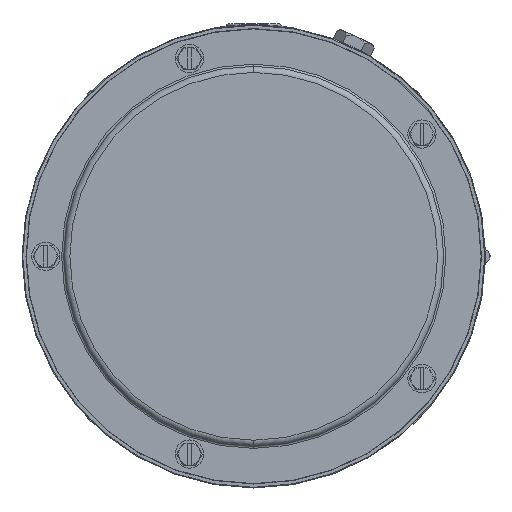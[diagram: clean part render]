
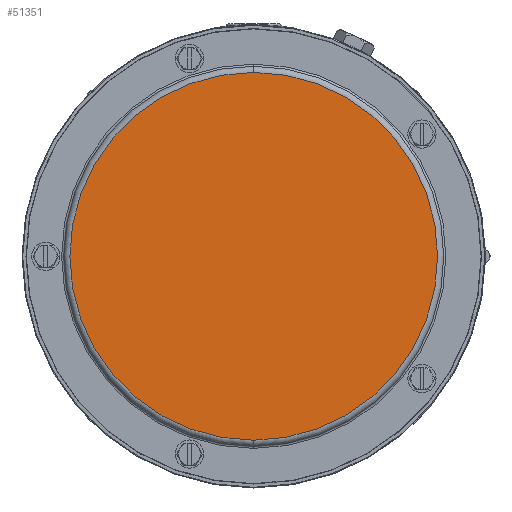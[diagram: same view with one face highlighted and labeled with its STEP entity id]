
A CAD part, left-side view. The second image highlights one B-rep face of the part: STEP entity #51351.
In plain terms, the highlighted planar face has unit normal (-1, 0, 0).
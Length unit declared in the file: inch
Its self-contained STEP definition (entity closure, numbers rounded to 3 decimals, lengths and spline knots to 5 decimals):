
#1126 = DIRECTION ( 'NONE',  ( -1., 0., 0. ) ) ;
#4671 = ORIENTED_EDGE ( 'NONE', *, *, #52448, .T. ) ;
#5028 = CARTESIAN_POINT ( 'NONE',  ( -9.42845, 2.6, 0. ) ) ;
#5670 = CARTESIAN_POINT ( 'NONE',  ( -9.42845, 0., 0. ) ) ;
#6726 = ORIENTED_EDGE ( 'NONE', *, *, #43761, .T. ) ;
#9464 = CARTESIAN_POINT ( 'NONE',  ( -9.42845, 0., -2.6 ) ) ;
#10126 = DIRECTION ( 'NONE',  ( 0., 0., 1. ) ) ;
#12328 = VERTEX_POINT ( 'NONE', #9464 ) ;
#21507 = CARTESIAN_POINT ( 'NONE',  ( -9.42845, 0., 2.6 ) ) ;
#22660 = DIRECTION ( 'NONE',  ( 1., 0., 0. ) ) ;
#26686 = EDGE_LOOP ( 'NONE', ( #4671, #6726 ) ) ;
#27347 = CARTESIAN_POINT ( 'NONE',  ( -9.42845, 0., 0. ) ) ;
#27467 = CIRCLE ( 'NONE', #37075, 2.6 ) ;
#28525 = CIRCLE ( 'NONE', #47880, 2.6 ) ;
#30846 = AXIS2_PLACEMENT_3D ( 'NONE', #5028, #22660, #52791 ) ;
#31719 = DIRECTION ( 'NONE',  ( 0., 0., 1. ) ) ;
#34533 = VERTEX_POINT ( 'NONE', #21507 ) ;
#36142 = DIRECTION ( 'NONE',  ( -1., 0., 0. ) ) ;
#37075 = AXIS2_PLACEMENT_3D ( 'NONE', #5670, #36142, #10126 ) ;
#39883 = PLANE ( 'NONE',  #30846 ) ;
#43761 = EDGE_CURVE ( 'NONE', #12328, #34533, #28525, .T. ) ;
#47880 = AXIS2_PLACEMENT_3D ( 'NONE', #27347, #1126, #31719 ) ;
#51127 = FACE_OUTER_BOUND ( 'NONE', #26686, .T. ) ;
#51351 = ADVANCED_FACE ( 'NONE', ( #51127 ), #39883, .F. ) ;
#52448 = EDGE_CURVE ( 'NONE', #34533, #12328, #27467, .T. ) ;
#52791 = DIRECTION ( 'NONE',  ( 0., 0., -1. ) ) ;
